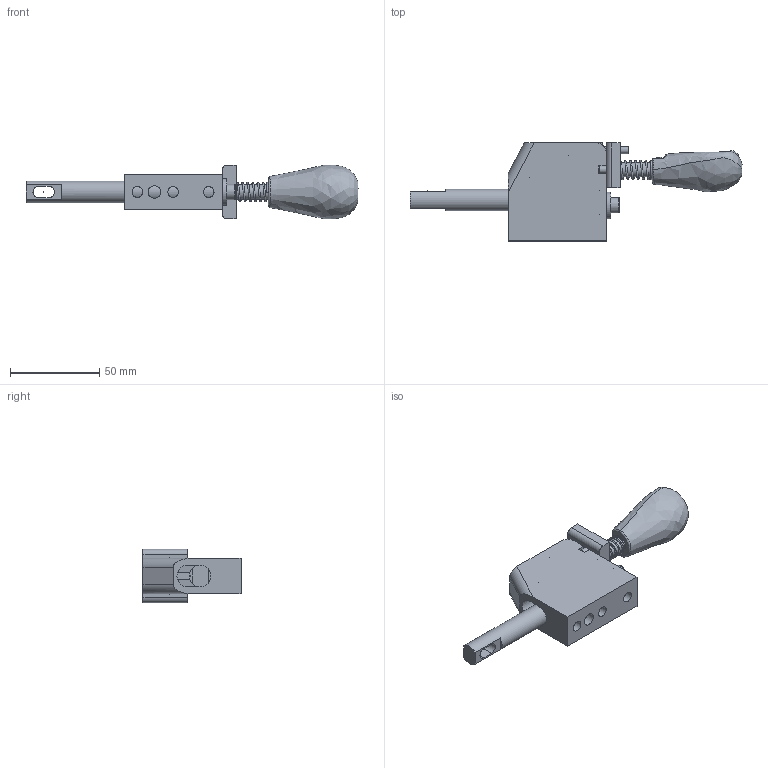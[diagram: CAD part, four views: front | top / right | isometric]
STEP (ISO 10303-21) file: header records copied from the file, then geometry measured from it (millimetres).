
FILE_DESCRIPTION(/* description */ (''),/* implementation_level */ '2;1');
FILE_NAME(/* name */ '\\192.168.1.150\pc03\Inventor\デュアルメカニズムクランプ最終\2017.10月　最新型\SUD-34ST-L\SUD-34ST-L-CLAMP.stp',/* time_stamp */ '2024-05-14T17:23:48+09:00',/* author */ ('Backup'),/* organization */ (''),/* preprocessor_version */ 'ST-DEVELOPER v17',/* originating_system */ 'Autodesk Inventor 2019',/* authorisation */ '');
FILE_SCHEMA (('AUTOMOTIVE_DESIGN { 1 0 10303 214 3 1 1 }'));
Length unit declared in the file: millimetre
Products named in the file (12): SUD-34ST-CLAMP; ボディ; 50-30_VER4_PG2__12; Φ8×40ｼｬﾌﾄ; カム; スライドバー; SB止め板; AS 1420 - 1973 - M5 x 14; φ4×25; φ4×25_1; スプリング; ロック機構
Assembly tree (12 placements, depth 2):
  SUD-34ST-CLAMP
    ボディ
    50-30_VER4_PG2__12
    Φ8×40ｼｬﾌﾄ
    カム
    スライドバー
    SB止め板
    AS 1420 - 1973 - M5 x 14
    φ4×25_1  x2
    φ4×25
    スプリング
    ロック機構
Bounding box: 186.25 x 55 x 30.18 mm (x, y, z)
Volume: 80378.4 mm3; surface area: 35106 mm2
Topology: 13 solids, 13 shells, 257 faces, 702 edges, 470 vertices
Faces by surface type: plane 128, cylinder 91, bspline 25, cone 7, sphere 4, torus 2
Full cylindrical faces by diameter (mm): 0.01 x13, 0.05 x1, 1.306 x1, 3.2 x2, 4 x7, 4.1 x1, 4.2 x3, 4.3 x1, 5 x1, 5.2 x1, 6 x4, 7.1 x1, 8 x2, 8.2 x1, 8.5 x1, 12 x1, 15 x1
Entity records: 19912 total; most frequent: CARTESIAN_POINT 12994, ORIENTED_EDGE 1382, DIRECTION 1311, EDGE_CURVE 691, AXIS2_PLACEMENT_3D 475, VERTEX_POINT 466, LINE 361, VECTOR 361
